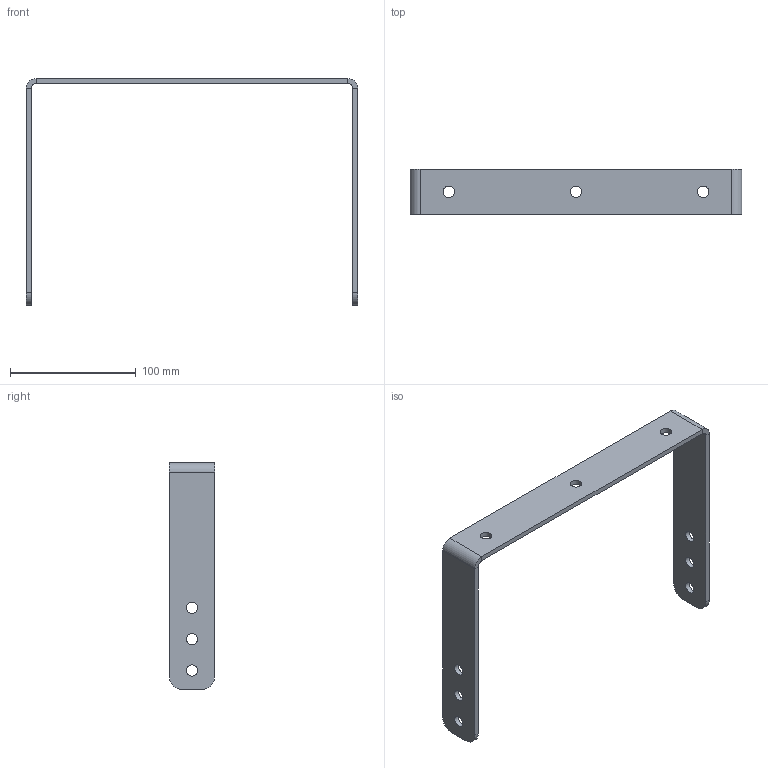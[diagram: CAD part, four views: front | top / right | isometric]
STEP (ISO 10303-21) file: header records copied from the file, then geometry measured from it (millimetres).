
FILE_DESCRIPTION(/* description */ (''),/* implementation_level */ '2;1');
FILE_NAME(/* name */ 'UB 4 Q.stp',/* time_stamp */ '2024-09-26T16:02:48+02:00',/* author */ ('d.streicher'),/* organization */ (''),/* preprocessor_version */ 'ST-DEVELOPER v20',/* originating_system */ 'Autodesk Inventor 2025',/* authorisation */ '');
FILE_SCHEMA (('AUTOMOTIVE_DESIGN { 1 0 10303 214 3 1 1 }'));
Length unit declared in the file: millimetre
Products named in the file (1): UB 4 Q
Bounding box: 264 x 36 x 180.5 mm (x, y, z)
Volume: 85472.8 mm3; surface area: 48868.4 mm2
Topology: 1 solids, 1 shells, 35 faces, 83 edges, 50 vertices
Faces by surface type: plane 18, cylinder 17
Full cylindrical faces by diameter (mm): 9 x9
Entity records: 1126 total; most frequent: DIRECTION 189, CARTESIAN_POINT 169, ORIENTED_EDGE 166, EDGE_CURVE 83, AXIS2_PLACEMENT_3D 70, EDGE_LOOP 53, VERTEX_POINT 50, LINE 49
